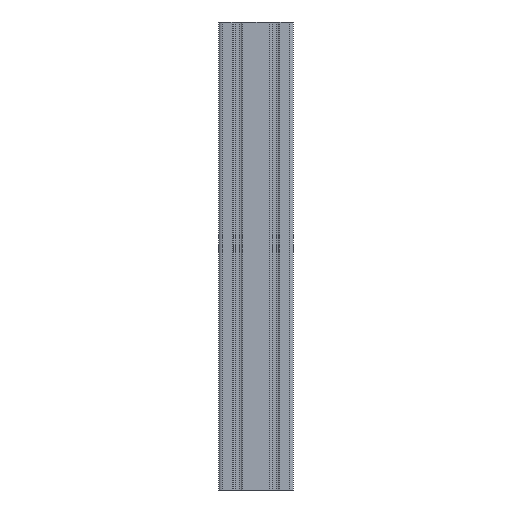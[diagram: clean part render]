
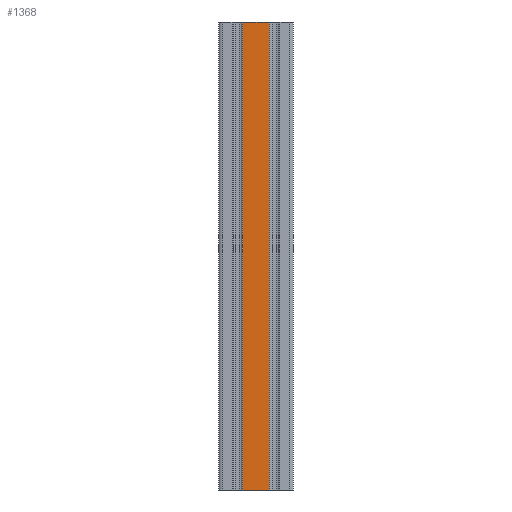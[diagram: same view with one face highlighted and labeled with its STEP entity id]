
A CAD part, left-side view. The second image highlights one B-rep face of the part: STEP entity #1368.
In plain terms, the highlighted planar face has unit normal (-1, 0, 0).
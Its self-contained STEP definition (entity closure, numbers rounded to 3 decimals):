
#408 = VERTEX_POINT ( 'NONE', #2024 ) ;
#414 = EDGE_CURVE ( 'NONE', #416, #408, #2010, .T. ) ;
#416 = VERTEX_POINT ( 'NONE', #2059 ) ;
#1315 = EDGE_CURVE ( 'NONE', #6233, #416, #3469, .T. ) ;
#1356 = ORIENTED_EDGE ( 'NONE', *, *, #6336, .F. ) ;
#1360 = EDGE_CURVE ( 'NONE', #6270, #408, #3539, .T. ) ;
#1362 = ORIENTED_EDGE ( 'NONE', *, *, #414, .T. ) ;
#1368 = ADVANCED_FACE ( 'NONE', ( #3502 ), #3477, .F. ) ;
#1369 = ORIENTED_EDGE ( 'NONE', *, *, #1360, .F. ) ;
#1370 = EDGE_LOOP ( 'NONE', ( #1362, #1369, #1356, #1404 ) ) ;
#1404 = ORIENTED_EDGE ( 'NONE', *, *, #1315, .T. ) ;
#2010 = LINE ( 'NONE', #2053, #2052 ) ;
#2024 = CARTESIAN_POINT ( 'NONE',  ( -7190.513, -6056.645, 0. ) ) ;
#2051 = DIRECTION ( 'NONE',  ( 0., -1., 0. ) ) ;
#2052 = VECTOR ( 'NONE', #2051, 1000. ) ;
#2053 = CARTESIAN_POINT ( 'NONE',  ( -7190.513, -6027.845, 0. ) ) ;
#2059 = CARTESIAN_POINT ( 'NONE',  ( -7190.513, -6027.845, 0. ) ) ;
#3467 = DIRECTION ( 'NONE',  ( 0., 0., -1. ) ) ;
#3468 = VECTOR ( 'NONE', #3467, 1000. ) ;
#3469 = LINE ( 'NONE', #3476, #3468 ) ;
#3476 = CARTESIAN_POINT ( 'NONE',  ( -7190.513, -6027.845, 500. ) ) ;
#3477 = PLANE ( 'NONE',  #3483 ) ;
#3483 = AXIS2_PLACEMENT_3D ( 'NONE', #3530, #3529, #3528 ) ;
#3502 = FACE_OUTER_BOUND ( 'NONE', #1370, .T. ) ;
#3528 = DIRECTION ( 'NONE',  ( 0., 0., -1. ) ) ;
#3529 = DIRECTION ( 'NONE',  ( 1., 0., 0. ) ) ;
#3530 = CARTESIAN_POINT ( 'NONE',  ( -7190.513, -6027.845, 500. ) ) ;
#3535 = DIRECTION ( 'NONE',  ( 0., 0., -1. ) ) ;
#3536 = VECTOR ( 'NONE', #3535, 1000. ) ;
#3537 = CARTESIAN_POINT ( 'NONE',  ( -7190.513, -6056.645, 500. ) ) ;
#3539 = LINE ( 'NONE', #3537, #3536 ) ;
#4835 = CARTESIAN_POINT ( 'NONE',  ( -7190.513, -6027.845, 500. ) ) ;
#4890 = CARTESIAN_POINT ( 'NONE',  ( -7190.513, -6056.645, 500. ) ) ;
#5016 = DIRECTION ( 'NONE',  ( 0., -1., 0. ) ) ;
#5017 = VECTOR ( 'NONE', #5016, 1000. ) ;
#5018 = CARTESIAN_POINT ( 'NONE',  ( -7190.513, -6027.845, 500. ) ) ;
#5035 = LINE ( 'NONE', #5018, #5017 ) ;
#6233 = VERTEX_POINT ( 'NONE', #4835 ) ;
#6270 = VERTEX_POINT ( 'NONE', #4890 ) ;
#6336 = EDGE_CURVE ( 'NONE', #6233, #6270, #5035, .T. ) ;
